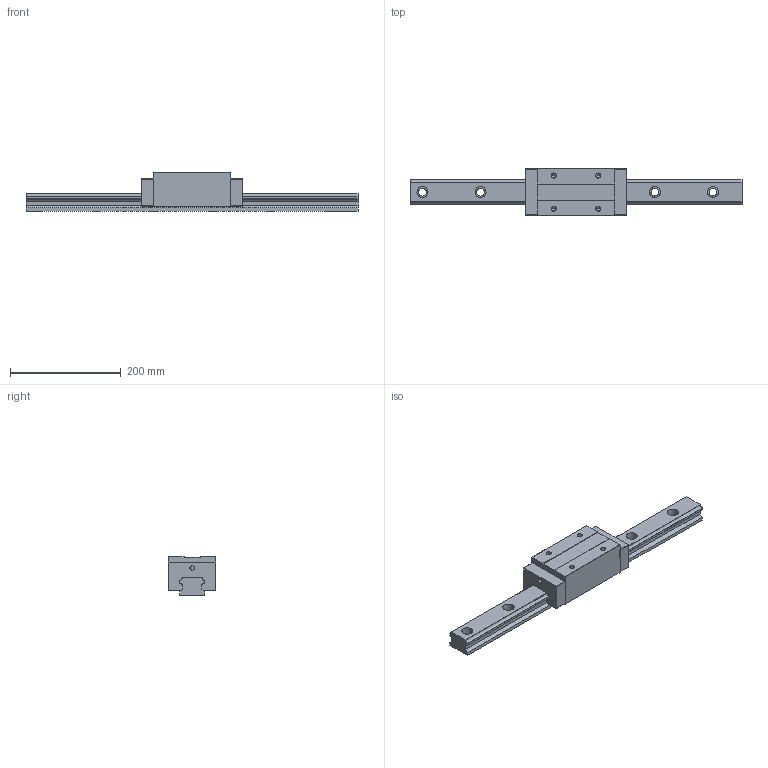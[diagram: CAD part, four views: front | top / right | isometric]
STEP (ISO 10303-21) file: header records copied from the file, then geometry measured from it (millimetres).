
FILE_DESCRIPTION (( 'STEP AP203' ), '1' );
FILE_NAME ('TRH45VE-ZN-§ï.STEP', '2023-08-31T00:54:36', ( '' ), ( '' ), 'SwSTEP 2.0', 'SolidWorks 2022', '' );
FILE_SCHEMA (( 'CONFIG_CONTROL_DESIGN' ));
Length unit declared in the file: millimetre
Products named in the file (1): TRH45VE-ZN-改
Bounding box: 600 x 85.5 x 70 mm (x, y, z)
Volume: 1456749.7 mm3; surface area: 172276.2 mm2
Topology: 1 solids, 1 shells, 165 faces, 452 edges, 290 vertices
Faces by surface type: plane 77, cylinder 72, cone 16
Entity records: 5293 total; most frequent: DIRECTION 930, CARTESIAN_POINT 900, ORIENTED_EDGE 888, EDGE_CURVE 444, AXIS2_PLACEMENT_3D 320, VERTEX_POINT 290, LINE 290, VECTOR 290
